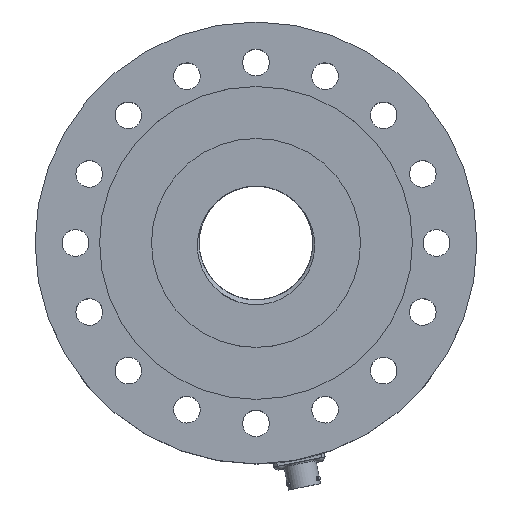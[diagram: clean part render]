
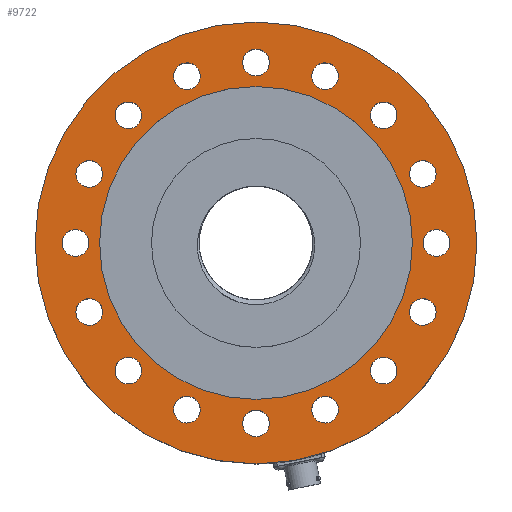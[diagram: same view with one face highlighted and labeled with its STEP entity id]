
A CAD part, top view. The second image highlights one B-rep face of the part: STEP entity #9722.
In plain terms, the highlighted planar face has unit normal (0, 0, 1).
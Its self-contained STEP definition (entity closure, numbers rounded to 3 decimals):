
#266=FACE_BOUND('',#1583,.T.);
#267=FACE_BOUND('',#1584,.T.);
#268=FACE_BOUND('',#1585,.T.);
#269=FACE_BOUND('',#1586,.T.);
#270=FACE_BOUND('',#1587,.T.);
#271=FACE_BOUND('',#1588,.T.);
#272=FACE_BOUND('',#1589,.T.);
#273=FACE_BOUND('',#1590,.T.);
#274=FACE_BOUND('',#1591,.T.);
#275=FACE_BOUND('',#1592,.T.);
#276=FACE_BOUND('',#1593,.T.);
#277=FACE_BOUND('',#1594,.T.);
#278=FACE_BOUND('',#1595,.T.);
#279=FACE_BOUND('',#1596,.T.);
#280=FACE_BOUND('',#1597,.T.);
#281=FACE_BOUND('',#1598,.T.);
#282=FACE_BOUND('',#1599,.T.);
#482=PLANE('',#10568);
#936=FACE_OUTER_BOUND('',#1582,.T.);
#1582=EDGE_LOOP('',(#8135));
#1583=EDGE_LOOP('',(#8136));
#1584=EDGE_LOOP('',(#8137));
#1585=EDGE_LOOP('',(#8138));
#1586=EDGE_LOOP('',(#8139));
#1587=EDGE_LOOP('',(#8140));
#1588=EDGE_LOOP('',(#8141));
#1589=EDGE_LOOP('',(#8142));
#1590=EDGE_LOOP('',(#8143));
#1591=EDGE_LOOP('',(#8144));
#1592=EDGE_LOOP('',(#8145));
#1593=EDGE_LOOP('',(#8146));
#1594=EDGE_LOOP('',(#8147));
#1595=EDGE_LOOP('',(#8148));
#1596=EDGE_LOOP('',(#8149));
#1597=EDGE_LOOP('',(#8150));
#1598=EDGE_LOOP('',(#8151));
#1599=EDGE_LOOP('',(#8152));
#2137=CIRCLE('',#10529,6.1);
#2163=CIRCLE('',#10567,101.);
#2164=CIRCLE('',#10569,6.1);
#2165=CIRCLE('',#10570,6.1);
#2166=CIRCLE('',#10571,6.1);
#2167=CIRCLE('',#10572,6.1);
#2168=CIRCLE('',#10573,6.1);
#2169=CIRCLE('',#10574,6.1);
#2170=CIRCLE('',#10575,6.1);
#2171=CIRCLE('',#10576,6.1);
#2172=CIRCLE('',#10577,6.1);
#2173=CIRCLE('',#10578,6.1);
#2174=CIRCLE('',#10579,6.1);
#2175=CIRCLE('',#10580,6.1);
#2176=CIRCLE('',#10581,6.1);
#2177=CIRCLE('',#10582,6.1);
#2178=CIRCLE('',#10583,6.1);
#2179=CIRCLE('',#10584,71.5);
#4566=VERTEX_POINT('',#19160);
#4592=VERTEX_POINT('',#21318);
#4593=VERTEX_POINT('',#21322);
#4594=VERTEX_POINT('',#21324);
#4595=VERTEX_POINT('',#21326);
#4596=VERTEX_POINT('',#21328);
#4597=VERTEX_POINT('',#21330);
#4598=VERTEX_POINT('',#21332);
#4599=VERTEX_POINT('',#21334);
#4600=VERTEX_POINT('',#21336);
#4601=VERTEX_POINT('',#21338);
#4602=VERTEX_POINT('',#21340);
#4603=VERTEX_POINT('',#21342);
#4604=VERTEX_POINT('',#21344);
#4605=VERTEX_POINT('',#21346);
#4606=VERTEX_POINT('',#21348);
#4607=VERTEX_POINT('',#21350);
#4608=VERTEX_POINT('',#21352);
#5795=EDGE_CURVE('',#4566,#4566,#2137,.T.);
#5834=EDGE_CURVE('',#4592,#4592,#2163,.T.);
#5836=EDGE_CURVE('',#4593,#4593,#2164,.T.);
#5837=EDGE_CURVE('',#4594,#4594,#2165,.T.);
#5838=EDGE_CURVE('',#4595,#4595,#2166,.T.);
#5839=EDGE_CURVE('',#4596,#4596,#2167,.T.);
#5840=EDGE_CURVE('',#4597,#4597,#2168,.T.);
#5841=EDGE_CURVE('',#4598,#4598,#2169,.T.);
#5842=EDGE_CURVE('',#4599,#4599,#2170,.T.);
#5843=EDGE_CURVE('',#4600,#4600,#2171,.T.);
#5844=EDGE_CURVE('',#4601,#4601,#2172,.T.);
#5845=EDGE_CURVE('',#4602,#4602,#2173,.T.);
#5846=EDGE_CURVE('',#4603,#4603,#2174,.T.);
#5847=EDGE_CURVE('',#4604,#4604,#2175,.T.);
#5848=EDGE_CURVE('',#4605,#4605,#2176,.T.);
#5849=EDGE_CURVE('',#4606,#4606,#2177,.T.);
#5850=EDGE_CURVE('',#4607,#4607,#2178,.T.);
#5851=EDGE_CURVE('',#4608,#4608,#2179,.T.);
#8135=ORIENTED_EDGE('',*,*,#5834,.T.);
#8136=ORIENTED_EDGE('',*,*,#5836,.T.);
#8137=ORIENTED_EDGE('',*,*,#5837,.T.);
#8138=ORIENTED_EDGE('',*,*,#5838,.T.);
#8139=ORIENTED_EDGE('',*,*,#5839,.T.);
#8140=ORIENTED_EDGE('',*,*,#5840,.T.);
#8141=ORIENTED_EDGE('',*,*,#5841,.T.);
#8142=ORIENTED_EDGE('',*,*,#5842,.T.);
#8143=ORIENTED_EDGE('',*,*,#5843,.T.);
#8144=ORIENTED_EDGE('',*,*,#5844,.T.);
#8145=ORIENTED_EDGE('',*,*,#5845,.T.);
#8146=ORIENTED_EDGE('',*,*,#5846,.T.);
#8147=ORIENTED_EDGE('',*,*,#5847,.T.);
#8148=ORIENTED_EDGE('',*,*,#5848,.T.);
#8149=ORIENTED_EDGE('',*,*,#5849,.T.);
#8150=ORIENTED_EDGE('',*,*,#5850,.T.);
#8151=ORIENTED_EDGE('',*,*,#5795,.T.);
#8152=ORIENTED_EDGE('',*,*,#5851,.F.);
#9722=ADVANCED_FACE('',(#936,#266,#267,#268,#269,#270,#271,#272,#273,#274,
#275,#276,#277,#278,#279,#280,#281,#282),#482,.T.);
#10529=AXIS2_PLACEMENT_3D('',#19161,#12381,#12382);
#10567=AXIS2_PLACEMENT_3D('',#21319,#12462,#12463);
#10568=AXIS2_PLACEMENT_3D('',#21321,#12465,#12466);
#10569=AXIS2_PLACEMENT_3D('',#21323,#12467,#12468);
#10570=AXIS2_PLACEMENT_3D('',#21325,#12469,#12470);
#10571=AXIS2_PLACEMENT_3D('',#21327,#12471,#12472);
#10572=AXIS2_PLACEMENT_3D('',#21329,#12473,#12474);
#10573=AXIS2_PLACEMENT_3D('',#21331,#12475,#12476);
#10574=AXIS2_PLACEMENT_3D('',#21333,#12477,#12478);
#10575=AXIS2_PLACEMENT_3D('',#21335,#12479,#12480);
#10576=AXIS2_PLACEMENT_3D('',#21337,#12481,#12482);
#10577=AXIS2_PLACEMENT_3D('',#21339,#12483,#12484);
#10578=AXIS2_PLACEMENT_3D('',#21341,#12485,#12486);
#10579=AXIS2_PLACEMENT_3D('',#21343,#12487,#12488);
#10580=AXIS2_PLACEMENT_3D('',#21345,#12489,#12490);
#10581=AXIS2_PLACEMENT_3D('',#21347,#12491,#12492);
#10582=AXIS2_PLACEMENT_3D('',#21349,#12493,#12494);
#10583=AXIS2_PLACEMENT_3D('',#21351,#12495,#12496);
#10584=AXIS2_PLACEMENT_3D('',#21353,#12497,#12498);
#12381=DIRECTION('center_axis',(0.,0.,-1.));
#12382=DIRECTION('ref_axis',(-1.,0.,0.));
#12462=DIRECTION('center_axis',(0.,0.,1.));
#12463=DIRECTION('ref_axis',(1.,0.,0.));
#12465=DIRECTION('center_axis',(0.,0.,1.));
#12466=DIRECTION('ref_axis',(1.,0.,0.));
#12467=DIRECTION('center_axis',(0.,0.,-1.));
#12468=DIRECTION('ref_axis',(-0.924,0.383,0.));
#12469=DIRECTION('center_axis',(0.,0.,-1.));
#12470=DIRECTION('ref_axis',(-0.707,0.707,0.));
#12471=DIRECTION('center_axis',(0.,0.,-1.));
#12472=DIRECTION('ref_axis',(-0.383,0.924,0.));
#12473=DIRECTION('center_axis',(0.,0.,-1.));
#12474=DIRECTION('ref_axis',(0.,1.,0.));
#12475=DIRECTION('center_axis',(0.,0.,-1.));
#12476=DIRECTION('ref_axis',(0.383,0.924,0.));
#12477=DIRECTION('center_axis',(0.,0.,-1.));
#12478=DIRECTION('ref_axis',(0.707,0.707,0.));
#12479=DIRECTION('center_axis',(0.,0.,-1.));
#12480=DIRECTION('ref_axis',(0.924,0.383,0.));
#12481=DIRECTION('center_axis',(0.,0.,-1.));
#12482=DIRECTION('ref_axis',(1.,0.,0.));
#12483=DIRECTION('center_axis',(0.,0.,-1.));
#12484=DIRECTION('ref_axis',(0.924,-0.383,0.));
#12485=DIRECTION('center_axis',(0.,0.,-1.));
#12486=DIRECTION('ref_axis',(0.707,-0.707,0.));
#12487=DIRECTION('center_axis',(0.,0.,-1.));
#12488=DIRECTION('ref_axis',(0.383,-0.924,0.));
#12489=DIRECTION('center_axis',(0.,0.,-1.));
#12490=DIRECTION('ref_axis',(0.,-1.,0.));
#12491=DIRECTION('center_axis',(0.,0.,-1.));
#12492=DIRECTION('ref_axis',(-0.383,-0.924,0.));
#12493=DIRECTION('center_axis',(0.,0.,-1.));
#12494=DIRECTION('ref_axis',(-0.707,-0.707,0.));
#12495=DIRECTION('center_axis',(0.,0.,-1.));
#12496=DIRECTION('ref_axis',(-0.924,-0.383,0.));
#12497=DIRECTION('center_axis',(0.,0.,1.));
#12498=DIRECTION('ref_axis',(1.,0.,0.));
#19160=CARTESIAN_POINT('',(88.6,0.,50.));
#19161=CARTESIAN_POINT('Origin',(82.5,0.,50.));
#21318=CARTESIAN_POINT('',(-101.,0.,50.));
#21319=CARTESIAN_POINT('Origin',(0.,0.,50.));
#21321=CARTESIAN_POINT('Origin',(71.5,0.,50.));
#21322=CARTESIAN_POINT('',(81.856,-33.906,50.));
#21323=CARTESIAN_POINT('Origin',(76.22,-31.571,50.));
#21324=CARTESIAN_POINT('',(62.65,-62.65,50.));
#21325=CARTESIAN_POINT('Origin',(58.336,-58.336,50.));
#21326=CARTESIAN_POINT('',(33.906,-81.856,50.));
#21327=CARTESIAN_POINT('Origin',(31.571,-76.22,50.));
#21328=CARTESIAN_POINT('',(0.,-88.6,50.));
#21329=CARTESIAN_POINT('Origin',(0.,-82.5,50.));
#21330=CARTESIAN_POINT('',(-33.906,-81.856,50.));
#21331=CARTESIAN_POINT('Origin',(-31.571,-76.22,50.));
#21332=CARTESIAN_POINT('',(-62.65,-62.65,50.));
#21333=CARTESIAN_POINT('Origin',(-58.336,-58.336,50.));
#21334=CARTESIAN_POINT('',(-81.856,-33.906,50.));
#21335=CARTESIAN_POINT('Origin',(-76.22,-31.571,50.));
#21336=CARTESIAN_POINT('',(-88.6,0.,50.));
#21337=CARTESIAN_POINT('Origin',(-82.5,0.,50.));
#21338=CARTESIAN_POINT('',(-81.856,33.906,50.));
#21339=CARTESIAN_POINT('Origin',(-76.22,31.571,50.));
#21340=CARTESIAN_POINT('',(-62.65,62.65,50.));
#21341=CARTESIAN_POINT('Origin',(-58.336,58.336,50.));
#21342=CARTESIAN_POINT('',(-33.906,81.856,50.));
#21343=CARTESIAN_POINT('Origin',(-31.571,76.22,50.));
#21344=CARTESIAN_POINT('',(0.,88.6,50.));
#21345=CARTESIAN_POINT('Origin',(0.,82.5,50.));
#21346=CARTESIAN_POINT('',(33.906,81.856,50.));
#21347=CARTESIAN_POINT('Origin',(31.571,76.22,50.));
#21348=CARTESIAN_POINT('',(62.65,62.65,50.));
#21349=CARTESIAN_POINT('Origin',(58.336,58.336,50.));
#21350=CARTESIAN_POINT('',(81.856,33.906,50.));
#21351=CARTESIAN_POINT('Origin',(76.22,31.571,50.));
#21352=CARTESIAN_POINT('',(-71.5,0.,50.));
#21353=CARTESIAN_POINT('Origin',(0.,0.,50.));
